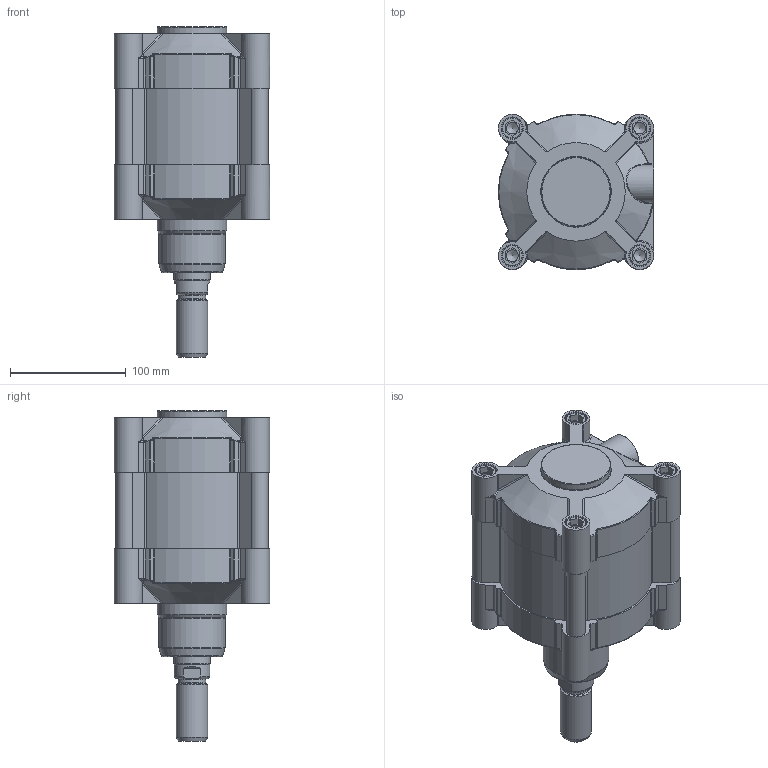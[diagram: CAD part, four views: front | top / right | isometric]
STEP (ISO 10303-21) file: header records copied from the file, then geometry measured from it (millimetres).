
FILE_DESCRIPTION(/* description */ (''),/* implementation_level */ '2;1');
FILE_NAME(/* name */ 'T:\Archivio Inventor\- 00 NUOVI STP PER SITO CON STELO CHE SI MUOVE\SERIE H - U\SERIE HDM\HDM125 - TUBO NUOVO\HDM125.000.GS.M.stp',/* time_stamp */ '2018-08-02T12:30:04+02:00',/* author */ ('carlo.corazza'),/* organization */ (''),/* preprocessor_version */ 'ST-DEVELOPER v16.5',/* originating_system */ 'Autodesk Inventor 2017',/* authorisation */ '');
FILE_SCHEMA (('AUTOMOTIVE_DESIGN { 1 0 10303 214 3 1 1 }'));
Length unit declared in the file: millimetre
Products named in the file (5): HDM125.000.GS.M; TP; TA; STELO-000; CORPO-000
Assembly tree (4 placements, depth 2):
  HDM125.000.GS.M
    TP
    TA
    STELO-000
    CORPO-000
Bounding box: 134 x 134 x 285 mm (x, y, z)
Volume: 1387470.5 mm3; surface area: 372728.4 mm2
Topology: 4 solids, 39 shells, 1471 faces, 3470 edges, 2126 vertices
Faces by surface type: plane 463, cylinder 333, bspline 280, torus 145, cone 134, sphere 116
Full cylindrical faces by diameter (mm): 5.9 x2, 6 x2, 6.5 x2, 7.25 x2, 9.4 x4, 10.106 x8, 11.8 x4, 11.9 x2, 12 x14, 12.3 x8, 17 x2, 18 x8, 18.3 x8, 18.631 x2, 20 x1, 23.8 x1, 27 x1, 31 x1, 32 x1, 32.8 x1, 32.962 x1, 38 x1, 41.5 x2, 42 x3, 57 x1, 60 x2, 125 x1, 126.5 x2, 130 x2
Entity records: 48498 total; most frequent: CARTESIAN_POINT 15364, ORIENTED_EDGE 6366, DIRECTION 6308, EDGE_CURVE 3183, AXIS2_PLACEMENT_3D 2556, VERTEX_POINT 2069, EDGE_LOOP 1800, STYLED_ITEM 1475
